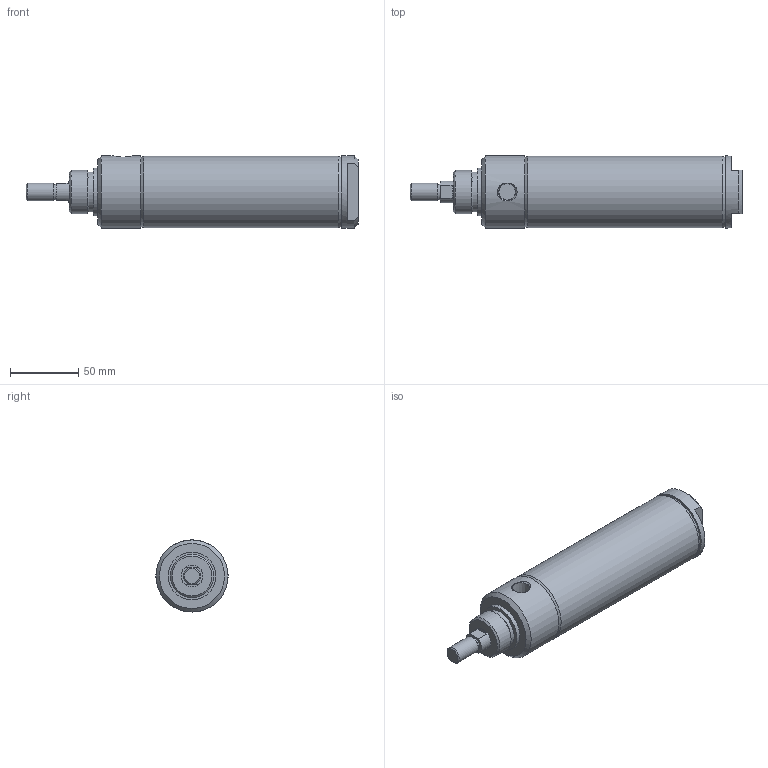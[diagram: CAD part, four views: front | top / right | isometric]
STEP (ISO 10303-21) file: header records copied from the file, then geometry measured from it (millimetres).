
FILE_DESCRIPTION( ( 'STEP AP214' ), '1' );
FILE_NAME( 'p:/temp/worker_475/temp/exporttempdir_84220_205_UkT8I/format_0/2000D01-04A.stp', '2020-05-07T19:02:56', ( 'License CC BY-ND 4.0' ), ( 'CADENAS' ), ' ', 'PARTsolutions', ' ' );
FILE_SCHEMA( ( 'AUTOMOTIVE_DESIGN { 1 0 10303 214 1 1 1 1 }' ) );
Length unit declared in the file: inch
Products named in the file (3): 2000D01-04A; _2000D01-04A-0000A00A0b; _2000D01-04A-0000A00A0r
Assembly tree (2 placements, depth 2):
  2000D01-04A
    _2000D01-04A-0000A00A0b
    _2000D01-04A-0000A00A0r
Bounding box: 242.9 x 52.78 x 52.78 mm (x, y, z)
Volume: 239190.1 mm3; surface area: 87803.9 mm2
Topology: 2 solids, 2 shells, 48 faces, 92 edges, 58 vertices
Faces by surface type: plane 22, cone 13, cylinder 13
Full cylindrical faces by diameter (mm): 11.189 x1, 12.7 x1, 15.875 x3, 29.23 x1, 31.75 x1, 34.925 x1, 50.8 x2, 52.578 x1, 52.781 x2
Entity records: 1605 total; most frequent: CARTESIAN_POINT 271, DIRECTION 206, ORIENTED_EDGE 130, AXIS2_PLACEMENT_3D 95, EDGE_LOOP 84, EDGE_CURVE 65, FACE_OUTER_BOUND 61, VERTEX_POINT 55
